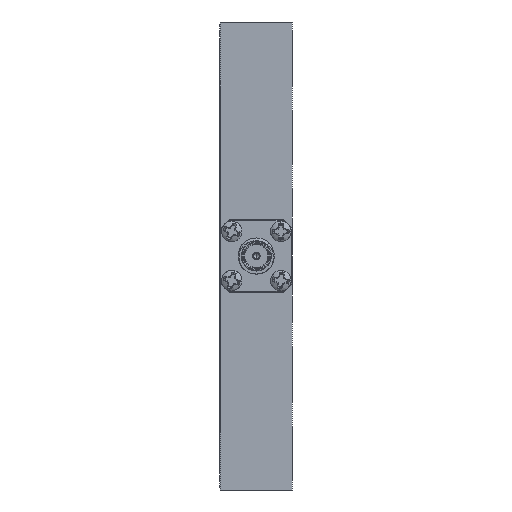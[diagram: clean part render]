
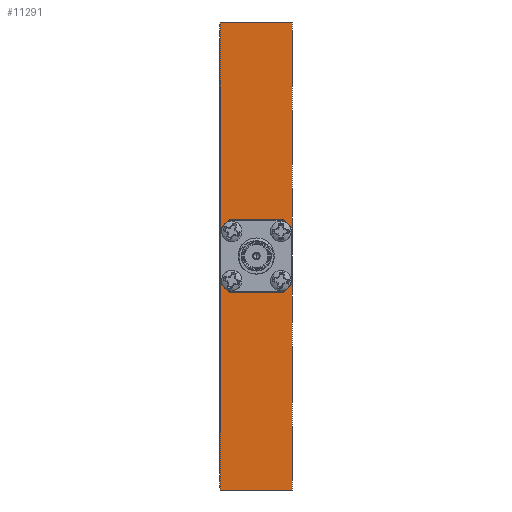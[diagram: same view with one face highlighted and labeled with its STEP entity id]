
A CAD part, left-side view. The second image highlights one B-rep face of the part: STEP entity #11291.
In plain terms, the highlighted planar face has unit normal (-1, 0, 0).
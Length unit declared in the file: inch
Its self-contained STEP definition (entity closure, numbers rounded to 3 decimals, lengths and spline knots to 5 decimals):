
#1521 = AXIS2_PLACEMENT_3D ( 'NONE', #92059, #37179, #38654 ) ;
#5015 = DIRECTION ( 'NONE',  ( 0., 1., 0. ) ) ;
#9908 = ORIENTED_EDGE ( 'NONE', *, *, #50131, .F. ) ;
#10257 = ORIENTED_EDGE ( 'NONE', *, *, #94204, .T. ) ;
#11291 = ADVANCED_FACE ( 'NONE', ( #52497 ), #74730, .T. ) ;
#12634 = DIRECTION ( 'NONE',  ( 0., 0., 1. ) ) ;
#13109 = CARTESIAN_POINT ( 'NONE',  ( -5.215, -0.5, -1.62 ) ) ;
#15145 = EDGE_CURVE ( 'NONE', #58636, #95921, #65274, .T. ) ;
#27418 = VECTOR ( 'NONE', #5015, 39.37008 ) ;
#31302 = LINE ( 'NONE', #47518, #73856 ) ;
#32273 = EDGE_LOOP ( 'NONE', ( #9908, #35517, #10257, #38500 ) ) ;
#35517 = ORIENTED_EDGE ( 'NONE', *, *, #15145, .F. ) ;
#37179 = DIRECTION ( 'NONE',  ( -1., 0., 0. ) ) ;
#38500 = ORIENTED_EDGE ( 'NONE', *, *, #58490, .T. ) ;
#38654 = DIRECTION ( 'NONE',  ( 0., 0., 1. ) ) ;
#47518 = CARTESIAN_POINT ( 'NONE',  ( -5.215, -0.5, 1.62 ) ) ;
#50131 = EDGE_CURVE ( 'NONE', #95921, #71504, #56704, .T. ) ;
#52497 = FACE_OUTER_BOUND ( 'NONE', #32273, .T. ) ;
#56704 = LINE ( 'NONE', #86891, #61439 ) ;
#58490 = EDGE_CURVE ( 'NONE', #94452, #71504, #31302, .T. ) ;
#58636 = VERTEX_POINT ( 'NONE', #81107 ) ;
#58930 = CARTESIAN_POINT ( 'NONE',  ( -5.215, -0.5, 1.62 ) ) ;
#60276 = CARTESIAN_POINT ( 'NONE',  ( -5.215, 0., -1.62 ) ) ;
#61439 = VECTOR ( 'NONE', #76987, 39.37008 ) ;
#65274 = LINE ( 'NONE', #72211, #27418 ) ;
#69756 = DIRECTION ( 'NONE',  ( 0., 1., 0. ) ) ;
#71504 = VERTEX_POINT ( 'NONE', #94870 ) ;
#72211 = CARTESIAN_POINT ( 'NONE',  ( -5.215, -0.5, -1.62 ) ) ;
#73856 = VECTOR ( 'NONE', #69756, 39.37008 ) ;
#74730 = PLANE ( 'NONE',  #1521 ) ;
#76987 = DIRECTION ( 'NONE',  ( 0., 0., 1. ) ) ;
#81107 = CARTESIAN_POINT ( 'NONE',  ( -5.215, -0.5, -1.62 ) ) ;
#86891 = CARTESIAN_POINT ( 'NONE',  ( -5.215, 0., -1.62 ) ) ;
#88743 = LINE ( 'NONE', #13109, #93956 ) ;
#92059 = CARTESIAN_POINT ( 'NONE',  ( -5.215, -0.5, -1.62 ) ) ;
#93956 = VECTOR ( 'NONE', #12634, 39.37008 ) ;
#94204 = EDGE_CURVE ( 'NONE', #58636, #94452, #88743, .T. ) ;
#94452 = VERTEX_POINT ( 'NONE', #58930 ) ;
#94870 = CARTESIAN_POINT ( 'NONE',  ( -5.215, 0., 1.62 ) ) ;
#95921 = VERTEX_POINT ( 'NONE', #60276 ) ;
